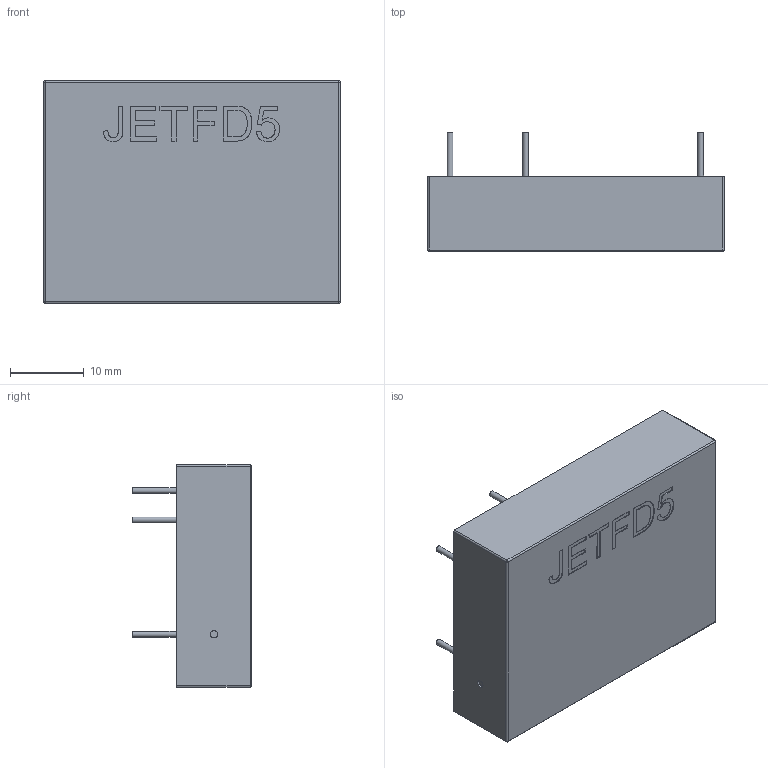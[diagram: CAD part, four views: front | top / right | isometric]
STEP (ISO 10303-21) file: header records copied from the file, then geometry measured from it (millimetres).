
FILE_DESCRIPTION(('STEP AP214'), '1');
FILE_NAME('JETFD5', '', ('UNSPECIFIED'), ('UNSPECIFIED'), 'ASCON STEP Converter 1.3', 'ASCON Math Kernel', '');
FILE_SCHEMA(('AUTOMOTIVE_DESIGN { 1 0 10303 214 3 1 1}'));
Length unit declared in the file: millimetre
Products named in the file (1): JETFD5
Bounding box: 40.2 x 16.2 x 30.2 mm (x, y, z)
Volume: 11849.2 mm3; surface area: 4010.3 mm2
Topology: 1 solids, 1 shells, 207 faces, 565 edges, 370 vertices
Faces by surface type: cylinder 128, plane 75, sphere 4
Full cylindrical faces by diameter (mm): 0.8 x5, 1 x1
Entity records: 8285 total; most frequent: DIRECTION 1227, CARTESIAN_POINT 1133, ORIENTED_EDGE 1110, EDGE_CURVE 555, AXIS2_PLACEMENT_3D 464, VERTEX_POINT 370, LINE 299, VECTOR 299
